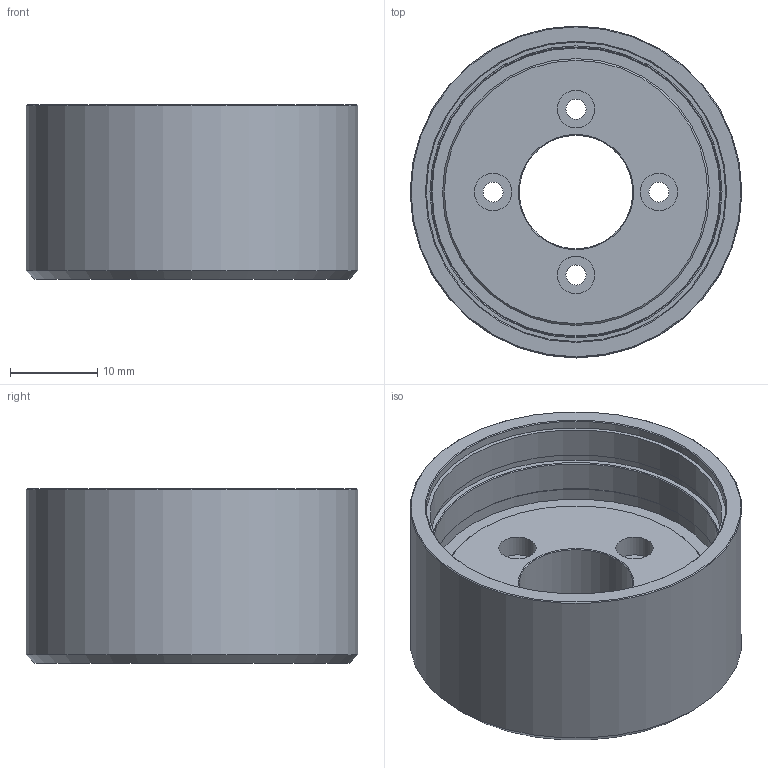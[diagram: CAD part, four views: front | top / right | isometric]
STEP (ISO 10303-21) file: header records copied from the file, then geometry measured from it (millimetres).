
FILE_DESCRIPTION(/* description */ (''),/* implementation_level */ '2;1');
FILE_NAME(/* name */ '38-1_flange_c_416.4665.05.stp',/* time_stamp */ '2016-09-19T14:57:14+02:00',/* author */ ('DR. FRITZ FAULHABER GmbH & Co. KG'),/* organization */ ('DR. FRITZ FAULHABER GmbH & Co. KG'),/* preprocessor_version */ 'ST-DEVELOPER v16',/* originating_system */ 'SIEMENS PLM Software NX 10.0',/* authorisation */ '');
FILE_SCHEMA (('AUTOMOTIVE_DESIGN { 1 0 10303 214 3 1 1 1 }'));
Length unit declared in the file: millimetre
Products named in the file (1): F0200012211_E
Bounding box: 38 x 38 x 20 mm (x, y, z)
Volume: 11839.5 mm3; surface area: 6238.5 mm2
Topology: 1 solids, 1 shells, 34 faces, 68 edges, 45 vertices
Faces by surface type: cylinder 15, plane 11, cone 8
Full cylindrical faces by diameter (mm): 2.3 x4, 4.3 x4, 13 x1, 33 x1, 33.4 x1, 33.459 x1, 34.3 x2, 38 x1
Entity records: 768 total; most frequent: DIRECTION 146, CARTESIAN_POINT 111, FACE_BOUND 76, EDGE_LOOP 76, ORIENTED_EDGE 76, AXIS2_PLACEMENT_3D 73, VERTEX_POINT 38, EDGE_CURVE 38
